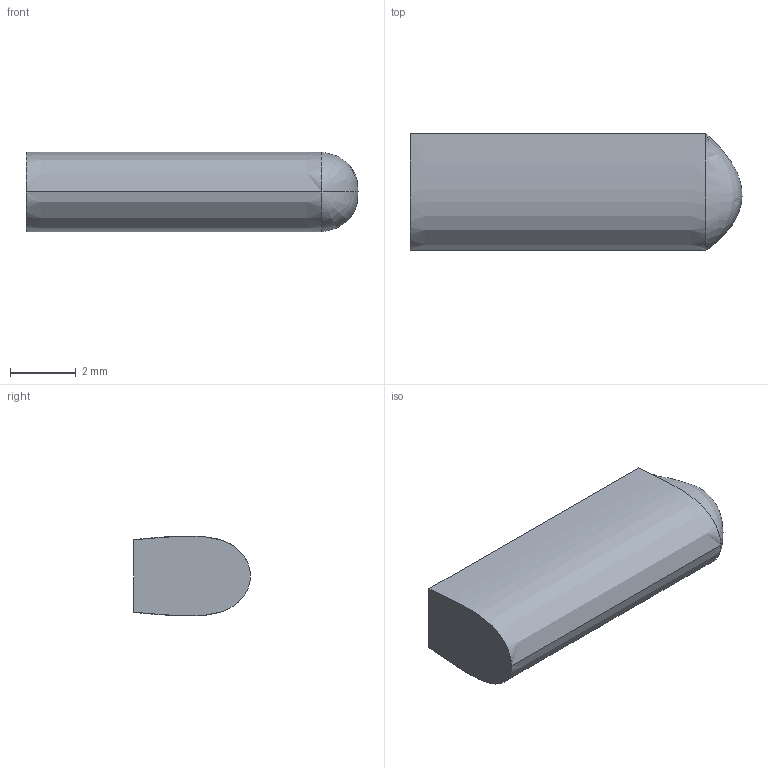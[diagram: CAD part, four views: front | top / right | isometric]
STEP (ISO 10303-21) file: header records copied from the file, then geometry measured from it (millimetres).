
FILE_DESCRIPTION((''),'1');
FILE_NAME('ELEK-ST12-20E','2001-03-29T',('rgoetz'),(''),'PRO/ENGINEER BY PARAMETRIC TECHNOLOGY CORPORATION, 2000350','PRO/ENGINEER BY PARAMETRIC TECHNOLOGY CORPORATION, 2000350','');
FILE_SCHEMA(('CONFIG_CONTROL_DESIGN'));
Length unit declared in the file: millimetre
Products named in the file (1): ELEK-ST12-20E
Bounding box: 10.1 x 3.55 x 2.43 mm (x, y, z)
Volume: 73.8 mm3; surface area: 114.5 mm2
Topology: 1 solids, 1 shells, 6 faces, 13 edges, 7 vertices
Faces by surface type: plane 2, extrusion 2, bspline 2
Entity records: 571 total; most frequent: CARTESIAN_POINT 426, ORIENTED_EDGE 22, DIRECTION 12, EDGE_CURVE 11, VECTOR 8, VERTEX_POINT 7, B_SPLINE_CURVE_WITH_KNOTS 7, LINE 6
